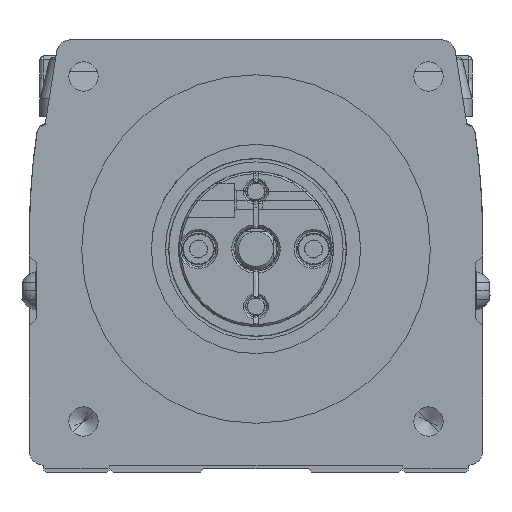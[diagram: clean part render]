
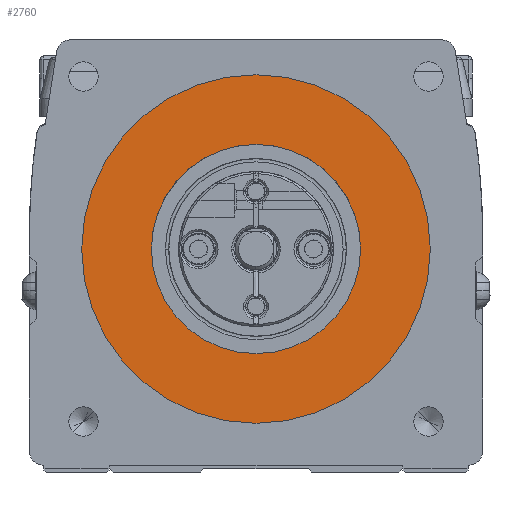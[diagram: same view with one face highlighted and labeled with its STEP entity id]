
A CAD part, left-side view. The second image highlights one B-rep face of the part: STEP entity #2760.
In plain terms, the highlighted planar face has unit normal (-1, 0, 0).
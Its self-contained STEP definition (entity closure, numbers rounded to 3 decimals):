
#2760=ADVANCED_FACE('',(#5134,#5135),#5136,.F.);
#5134=FACE_BOUND('',#10122,.T.);
#5135=FACE_OUTER_BOUND('',#10123,.T.);
#5136=PLANE('',#10124);
#10122=EDGE_LOOP('',(#17345,#17346));
#10123=EDGE_LOOP('',(#17347,#17348));
#10124=AXIS2_PLACEMENT_3D('',#17349,#17350,#17351);
#17345=ORIENTED_EDGE('',*,*,#35877,.T.);
#17346=ORIENTED_EDGE('',*,*,#35975,.T.);
#17347=ORIENTED_EDGE('',*,*,#36008,.T.);
#17348=ORIENTED_EDGE('',*,*,#35869,.T.);
#17349=CARTESIAN_POINT('',(-76.5,0.,0.));
#17350=DIRECTION('',(1.0,0.,0.));
#17351=DIRECTION('',(0.,1.0,0.));
#35869=EDGE_CURVE('',#41914,#41911,#41915,.T.);
#35877=EDGE_CURVE('',#41928,#41925,#41929,.T.);
#35975=EDGE_CURVE('',#41925,#41928,#42090,.T.);
#36008=EDGE_CURVE('',#41911,#41914,#42147,.T.);
#41911=VERTEX_POINT('',#51897);
#41914=VERTEX_POINT('',#51901);
#41915=CIRCLE('',#51902,25.0);
#41925=VERTEX_POINT('',#51937);
#41928=VERTEX_POINT('',#51941);
#41929=CIRCLE('',#51942,15.0);
#42090=CIRCLE('',#52224,15.0);
#42147=CIRCLE('',#52360,25.0);
#51897=CARTESIAN_POINT('',(-76.5,25.,0.));
#51901=CARTESIAN_POINT('',(-76.5,-25.,0.));
#51902=AXIS2_PLACEMENT_3D('',#67237,#67238,#67239);
#51937=CARTESIAN_POINT('',(-76.5,15.0,0.));
#51941=CARTESIAN_POINT('',(-76.5,-15.,0.));
#51942=AXIS2_PLACEMENT_3D('',#67247,#67248,#67249);
#52224=AXIS2_PLACEMENT_3D('',#67407,#67408,#67409);
#52360=AXIS2_PLACEMENT_3D('',#67464,#67465,#67466);
#67237=CARTESIAN_POINT('',(-76.5,0.,0.));
#67238=DIRECTION('',(-1.0,0.,0.));
#67239=DIRECTION('',(0.,1.0,0.));
#67247=CARTESIAN_POINT('',(-76.5,0.,0.));
#67248=DIRECTION('',(1.0,0.,0.));
#67249=DIRECTION('',(0.,1.0,0.));
#67407=CARTESIAN_POINT('',(-76.5,0.,0.));
#67408=DIRECTION('',(1.0,0.,0.));
#67409=DIRECTION('',(0.,1.0,0.));
#67464=CARTESIAN_POINT('',(-76.5,0.,0.));
#67465=DIRECTION('',(-1.0,0.,0.));
#67466=DIRECTION('',(0.,1.0,0.));
